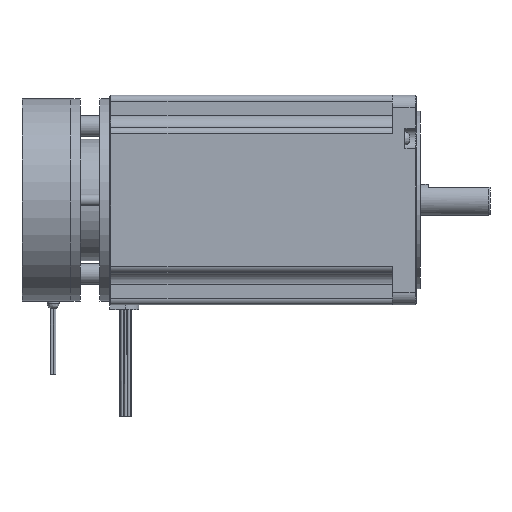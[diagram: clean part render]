
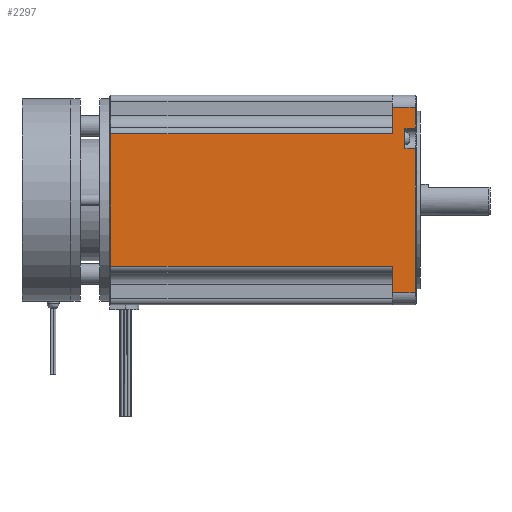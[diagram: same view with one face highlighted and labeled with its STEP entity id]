
A CAD part, left-side view. The second image highlights one B-rep face of the part: STEP entity #2297.
In plain terms, the highlighted planar face has unit normal (-1, 0, 0).
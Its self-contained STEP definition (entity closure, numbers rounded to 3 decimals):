
#293=PLANE('',#7490);
#618=FACE_OUTER_BOUND('',#3252,.T.);
#1042=LINE('',#10955,#1693);
#1043=LINE('',#10958,#1694);
#1044=LINE('',#10960,#1695);
#1045=LINE('',#10962,#1696);
#1046=LINE('',#10964,#1697);
#1047=LINE('',#10966,#1698);
#1048=LINE('',#10968,#1699);
#1049=LINE('',#10970,#1700);
#1050=LINE('',#10972,#1701);
#1051=LINE('',#10974,#1702);
#1052=LINE('',#10976,#1703);
#1053=LINE('',#10978,#1704);
#1693=VECTOR('',#8327,1.);
#1694=VECTOR('',#8328,1.);
#1695=VECTOR('',#8329,1.);
#1696=VECTOR('',#8330,1.);
#1697=VECTOR('',#8331,1.);
#1698=VECTOR('',#8332,1.);
#1699=VECTOR('',#8333,1.);
#1700=VECTOR('',#8334,1.);
#1701=VECTOR('',#8335,1.);
#1702=VECTOR('',#8336,1.);
#1703=VECTOR('',#8337,1.);
#1704=VECTOR('',#8338,1.);
#2297=ADVANCED_FACE('',(#618),#293,.F.);
#3252=EDGE_LOOP('',(#3881,#3882,#3883,#3884,#3885,#3886,#3887,#3888,#3889,
#3890,#3891,#3892));
#3881=ORIENTED_EDGE('',*,*,#6502,.F.);
#3882=ORIENTED_EDGE('',*,*,#6503,.T.);
#3883=ORIENTED_EDGE('',*,*,#6504,.T.);
#3884=ORIENTED_EDGE('',*,*,#6505,.T.);
#3885=ORIENTED_EDGE('',*,*,#6506,.T.);
#3886=ORIENTED_EDGE('',*,*,#6507,.T.);
#3887=ORIENTED_EDGE('',*,*,#6508,.F.);
#3888=ORIENTED_EDGE('',*,*,#6509,.F.);
#3889=ORIENTED_EDGE('',*,*,#6510,.F.);
#3890=ORIENTED_EDGE('',*,*,#6511,.T.);
#3891=ORIENTED_EDGE('',*,*,#6512,.T.);
#3892=ORIENTED_EDGE('',*,*,#6513,.T.);
#5850=VERTEX_POINT('',#10956);
#5851=VERTEX_POINT('',#10957);
#5852=VERTEX_POINT('',#10959);
#5853=VERTEX_POINT('',#10961);
#5854=VERTEX_POINT('',#10963);
#5855=VERTEX_POINT('',#10965);
#5856=VERTEX_POINT('',#10967);
#5857=VERTEX_POINT('',#10969);
#5858=VERTEX_POINT('',#10971);
#5859=VERTEX_POINT('',#10973);
#5860=VERTEX_POINT('',#10975);
#5861=VERTEX_POINT('',#10977);
#6502=EDGE_CURVE('',#5850,#5851,#1042,.T.);
#6503=EDGE_CURVE('',#5850,#5852,#1043,.T.);
#6504=EDGE_CURVE('',#5852,#5853,#1044,.T.);
#6505=EDGE_CURVE('',#5853,#5854,#1045,.T.);
#6506=EDGE_CURVE('',#5854,#5855,#1046,.T.);
#6507=EDGE_CURVE('',#5855,#5856,#1047,.T.);
#6508=EDGE_CURVE('',#5857,#5856,#1048,.T.);
#6509=EDGE_CURVE('',#5858,#5857,#1049,.T.);
#6510=EDGE_CURVE('',#5859,#5858,#1050,.T.);
#6511=EDGE_CURVE('',#5859,#5860,#1051,.T.);
#6512=EDGE_CURVE('',#5860,#5861,#1052,.T.);
#6513=EDGE_CURVE('',#5861,#5851,#1053,.T.);
#7490=AXIS2_PLACEMENT_3D('',#10979,#8339,#8340);
#8327=DIRECTION('',(0.,-1.,0.));
#8328=DIRECTION('',(0.,0.,-1.));
#8329=DIRECTION('',(0.,-1.,0.));
#8330=DIRECTION('',(0.,0.,-1.));
#8331=DIRECTION('',(0.,-1.,0.));
#8332=DIRECTION('',(0.,0.,1.));
#8333=DIRECTION('',(0.,-1.,0.));
#8334=DIRECTION('',(0.,0.,-1.));
#8335=DIRECTION('',(0.,1.,0.));
#8336=DIRECTION('',(0.,0.,1.));
#8337=DIRECTION('',(0.,1.,0.));
#8338=DIRECTION('',(0.,0.,-1.));
#8339=DIRECTION('',(1.,0.,0.));
#8340=DIRECTION('',(0.,0.,-1.));
#10955=CARTESIAN_POINT('',(-43.,126.,27.25));
#10956=CARTESIAN_POINT('',(-43.,125.5,27.25));
#10957=CARTESIAN_POINT('',(-43.,10.,27.25));
#10958=CARTESIAN_POINT('',(-43.,125.5,43.));
#10959=CARTESIAN_POINT('',(-43.,125.5,-27.25));
#10960=CARTESIAN_POINT('',(-43.,126.,-27.25));
#10961=CARTESIAN_POINT('',(-43.,10.,-27.25));
#10962=CARTESIAN_POINT('',(-43.,10.,43.));
#10963=CARTESIAN_POINT('',(-43.,10.,-38.));
#10964=CARTESIAN_POINT('',(-43.,0.1,-38.));
#10965=CARTESIAN_POINT('',(-43.,0.6,-38.));
#10966=CARTESIAN_POINT('',(-43.,0.6,21.));
#10967=CARTESIAN_POINT('',(-43.,0.6,21.));
#10968=CARTESIAN_POINT('',(-43.,0.1,21.));
#10969=CARTESIAN_POINT('',(-43.,4.8,21.));
#10970=CARTESIAN_POINT('',(-43.,4.8,43.));
#10971=CARTESIAN_POINT('',(-43.,4.8,29.5));
#10972=CARTESIAN_POINT('',(-43.,0.1,29.5));
#10973=CARTESIAN_POINT('',(-43.,0.6,29.5));
#10974=CARTESIAN_POINT('',(-43.,0.6,38.));
#10975=CARTESIAN_POINT('',(-43.,0.6,38.));
#10976=CARTESIAN_POINT('',(-43.,0.1,38.));
#10977=CARTESIAN_POINT('',(-43.,10.,38.));
#10978=CARTESIAN_POINT('',(-43.,10.,43.));
#10979=CARTESIAN_POINT('',(-43.,0.1,43.));
